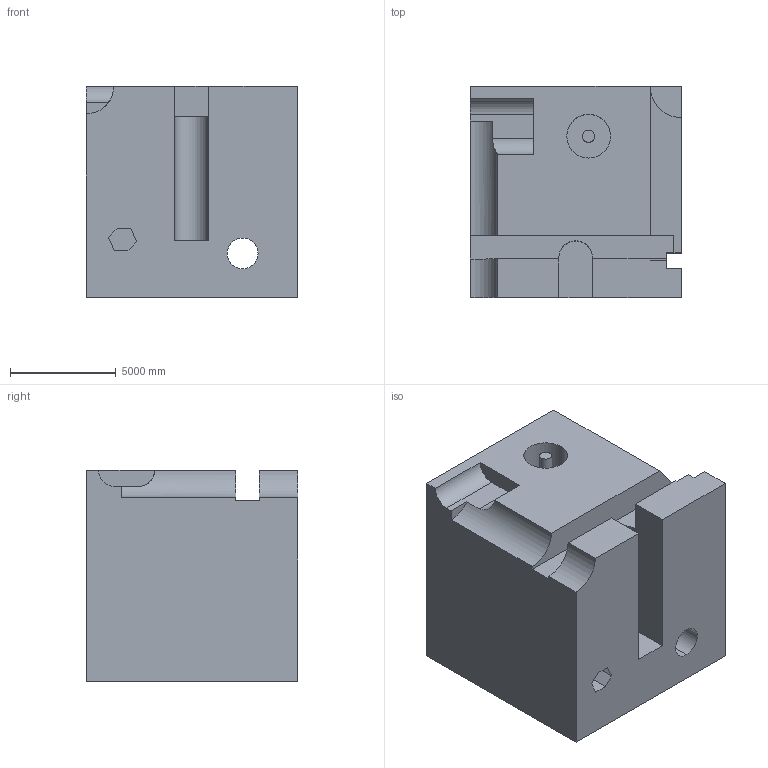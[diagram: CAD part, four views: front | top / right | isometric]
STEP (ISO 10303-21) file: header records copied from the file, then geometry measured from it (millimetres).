
FILE_DESCRIPTION (( 'STEP AP203' ), '1' );
FILE_NAME ('96.STEP', '2022-08-30T15:43:04', ( 'user' ), ( '' ), 'SwSTEP 2.0', 'SolidWorks 2021', '' );
FILE_SCHEMA (( 'CONFIG_CONTROL_DESIGN' ));
Length unit declared in the file: centimetre
Products named in the file (1): 96
Bounding box: 10000 x 10000 x 10000 mm (x, y, z)
Volume: 871084774944.7 mm3; surface area: 774009819.8 mm2
Topology: 1 solids, 1 shells, 47 faces, 125 edges, 83 vertices
Faces by surface type: plane 35, cylinder 12
Entity records: 1589 total; most frequent: CARTESIAN_POINT 316, ORIENTED_EDGE 250, DIRECTION 241, EDGE_CURVE 125, LINE 101, VECTOR 101, VERTEX_POINT 83, AXIS2_PLACEMENT_3D 70
